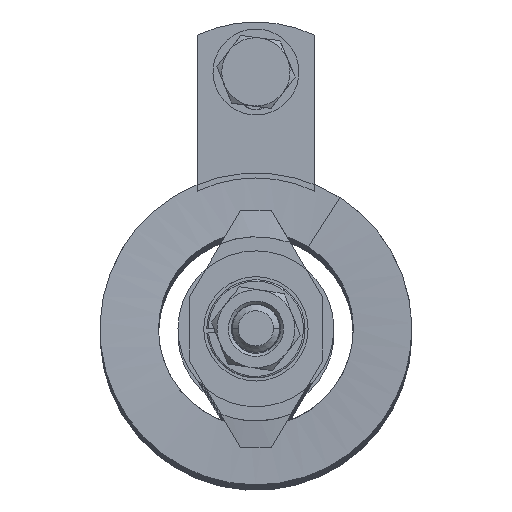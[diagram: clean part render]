
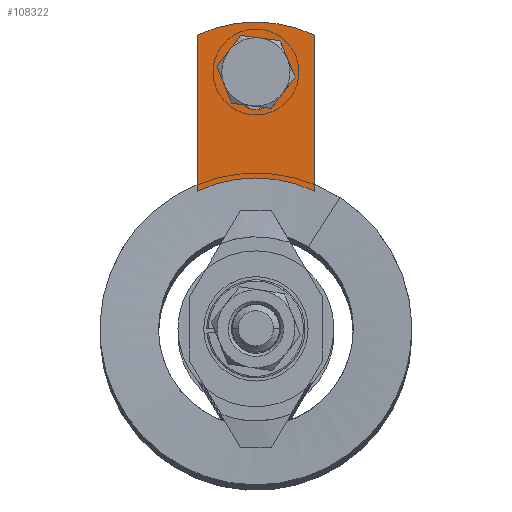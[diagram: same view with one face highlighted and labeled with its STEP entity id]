
A CAD part, top view. The second image highlights one B-rep face of the part: STEP entity #108322.
In plain terms, the highlighted planar face has unit normal (0, 0, 1).
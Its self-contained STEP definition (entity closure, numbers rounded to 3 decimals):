
#5591 = ORIENTED_EDGE ( 'NONE', *, *, #123793, .T. ) ;
#5594 = ORIENTED_EDGE ( 'NONE', *, *, #123825, .T. ) ;
#5602 = ORIENTED_EDGE ( 'NONE', *, *, #123821, .T. ) ;
#5604 = ORIENTED_EDGE ( 'NONE', *, *, #123819, .T. ) ;
#5606 = ORIENTED_EDGE ( 'NONE', *, *, #123817, .T. ) ;
#5608 = ORIENTED_EDGE ( 'NONE', *, *, #123815, .T. ) ;
#5614 = ORIENTED_EDGE ( 'NONE', *, *, #123813, .T. ) ;
#5616 = ORIENTED_EDGE ( 'NONE', *, *, #123785, .T. ) ;
#5624 = ORIENTED_EDGE ( 'NONE', *, *, #123777, .T. ) ;
#5626 = ORIENTED_EDGE ( 'NONE', *, *, #123823, .T. ) ;
#5670 = ORIENTED_EDGE ( 'NONE', *, *, #123827, .T. ) ;
#8631 = AXIS2_PLACEMENT_3D ( 'NONE', #79348, #79346, #79352 ) ;
#42783 = CARTESIAN_POINT ( 'NONE',  ( -28.575, 0., 0. ) ) ;
#42784 = DIRECTION ( 'NONE',  ( 0., 0., -1. ) ) ;
#42785 = DIRECTION ( 'NONE',  ( 1., 0., 0. ) ) ;
#42809 = CARTESIAN_POINT ( 'NONE',  ( 10.914, 0., 0. ) ) ;
#42810 = DIRECTION ( 'NONE',  ( 0., 0., -1. ) ) ;
#42811 = DIRECTION ( 'NONE',  ( 1., 0., 0. ) ) ;
#42839 = CARTESIAN_POINT ( 'NONE',  ( -3.175, 0., 0. ) ) ;
#42840 = DIRECTION ( 'NONE',  ( 0., 0., 1. ) ) ;
#42841 = DIRECTION ( 'NONE',  ( 1., 0., 0. ) ) ;
#42920 = CARTESIAN_POINT ( 'NONE',  ( 0., 3.373, 0. ) ) ;
#42921 = DIRECTION ( 'NONE',  ( 1., 0., 0. ) ) ;
#42926 = CARTESIAN_POINT ( 'NONE',  ( 10.914, 0., 0. ) ) ;
#42927 = DIRECTION ( 'NONE',  ( 0., 0., -1. ) ) ;
#42928 = DIRECTION ( 'NONE',  ( 1., 0., 0. ) ) ;
#42929 = CARTESIAN_POINT ( 'NONE',  ( 0., -3.373, 0. ) ) ;
#42930 = DIRECTION ( 'NONE',  ( -1., 0., 0. ) ) ;
#42935 = CARTESIAN_POINT ( 'NONE',  ( 8.136, 0., 0. ) ) ;
#42936 = DIRECTION ( 'NONE',  ( 0., 0., -1. ) ) ;
#42937 = DIRECTION ( 'NONE',  ( 1., 0., 0. ) ) ;
#42938 = CARTESIAN_POINT ( 'NONE',  ( 19.05, 9.525, 0. ) ) ;
#42939 = DIRECTION ( 'NONE',  ( -1., 0., 0. ) ) ;
#42955 = CARTESIAN_POINT ( 'NONE',  ( -28.575, 0., 0. ) ) ;
#42956 = DIRECTION ( 'NONE',  ( 0., 0., -1. ) ) ;
#42957 = DIRECTION ( 'NONE',  ( 1., 0., 0. ) ) ;
#42961 = CARTESIAN_POINT ( 'NONE',  ( 19.05, -9.525, 0. ) ) ;
#42962 = DIRECTION ( 'NONE',  ( 1., 0., 0. ) ) ;
#42967 = CARTESIAN_POINT ( 'NONE',  ( -3.175, 0., 0. ) ) ;
#42968 = DIRECTION ( 'NONE',  ( 0., 0., 1. ) ) ;
#42969 = DIRECTION ( 'NONE',  ( 1., 0., 0. ) ) ;
#55323 = CARTESIAN_POINT ( 'NONE',  ( -8.495, 9.525, 0. ) ) ;
#55326 = CARTESIAN_POINT ( 'NONE',  ( 8.136, 3.373, 0. ) ) ;
#55395 = CARTESIAN_POINT ( 'NONE',  ( -6.35, 0., 0. ) ) ;
#58133 = FACE_BOUND ( 'NONE', #68462, .T. ) ;
#58172 = FACE_OUTER_BOUND ( 'NONE', #68454, .T. ) ;
#58512 = CIRCLE ( 'NONE', #81388, 22.225 ) ;
#58520 = CIRCLE ( 'NONE', #81400, 3.373 ) ;
#58525 = CIRCLE ( 'NONE', #81408, 22.225 ) ;
#58571 = CIRCLE ( 'NONE', #81443, 22.225 ) ;
#58573 = LINE ( 'NONE', #42920, #58580 ) ;
#58580 = VECTOR ( 'NONE', #42921, 1000. ) ;
#58582 = CIRCLE ( 'NONE', #81438, 3.373 ) ;
#58588 = LINE ( 'NONE', #42929, #58595 ) ;
#58595 = VECTOR ( 'NONE', #42930, 1000. ) ;
#58597 = CIRCLE ( 'NONE', #81440, 3.373 ) ;
#58603 = LINE ( 'NONE', #42938, #58610 ) ;
#58610 = VECTOR ( 'NONE', #42939, 1000. ) ;
#58614 = LINE ( 'NONE', #42961, #58616 ) ;
#58616 = VECTOR ( 'NONE', #42962, 1000. ) ;
#58619 = CIRCLE ( 'NONE', #81445, 22.225 ) ;
#68454 = EDGE_LOOP ( 'NONE', ( #5602, #5624, #5626, #5594, #5591, #5670 ) ) ;
#68462 = EDGE_LOOP ( 'NONE', ( #5614, #5616, #5608, #5606, #5604 ) ) ;
#68998 = VERTEX_POINT ( 'NONE', #73691 ) ;
#68999 = VERTEX_POINT ( 'NONE', #73686 ) ;
#69002 = VERTEX_POINT ( 'NONE', #73693 ) ;
#69003 = VERTEX_POINT ( 'NONE', #73688 ) ;
#69004 = VERTEX_POINT ( 'NONE', #73694 ) ;
#69010 = VERTEX_POINT ( 'NONE', #73700 ) ;
#69011 = VERTEX_POINT ( 'NONE', #73701 ) ;
#69012 = VERTEX_POINT ( 'NONE', #73702 ) ;
#73686 = CARTESIAN_POINT ( 'NONE',  ( 14.287, 0., 0. ) ) ;
#73688 = CARTESIAN_POINT ( 'NONE',  ( 19.05, 0., 0. ) ) ;
#73691 = CARTESIAN_POINT ( 'NONE',  ( 10.914, 3.373, 0. ) ) ;
#73693 = CARTESIAN_POINT ( 'NONE',  ( 16.905, -9.525, 0. ) ) ;
#73694 = CARTESIAN_POINT ( 'NONE',  ( 16.905, 9.525, 0. ) ) ;
#73700 = CARTESIAN_POINT ( 'NONE',  ( 10.914, -3.373, 0. ) ) ;
#73701 = CARTESIAN_POINT ( 'NONE',  ( -8.495, -9.525, 0. ) ) ;
#73702 = CARTESIAN_POINT ( 'NONE',  ( 8.136, -3.373, 0. ) ) ;
#79346 = DIRECTION ( 'NONE',  ( 0., 0., 1. ) ) ;
#79348 = CARTESIAN_POINT ( 'NONE',  ( 0., 0., 0. ) ) ;
#79350 = PLANE ( 'NONE',  #8631 ) ;
#79352 = DIRECTION ( 'NONE',  ( 1., 0., 0. ) ) ;
#81388 = AXIS2_PLACEMENT_3D ( 'NONE', #42783, #42784, #42785 ) ;
#81400 = AXIS2_PLACEMENT_3D ( 'NONE', #42809, #42810, #42811 ) ;
#81408 = AXIS2_PLACEMENT_3D ( 'NONE', #42839, #42840, #42841 ) ;
#81438 = AXIS2_PLACEMENT_3D ( 'NONE', #42926, #42927, #42928 ) ;
#81440 = AXIS2_PLACEMENT_3D ( 'NONE', #42935, #42936, #42937 ) ;
#81443 = AXIS2_PLACEMENT_3D ( 'NONE', #42955, #42956, #42957 ) ;
#81445 = AXIS2_PLACEMENT_3D ( 'NONE', #42967, #42968, #42969 ) ;
#108322 = ADVANCED_FACE ( 'NONE', ( #58133, #58172 ), #79350, .T. ) ;
#123777 = EDGE_CURVE ( 'NONE', #137488, #138534, #58512, .T. ) ;
#123785 = EDGE_CURVE ( 'NONE', #68998, #68999, #58520, .T. ) ;
#123793 = EDGE_CURVE ( 'NONE', #69002, #69003, #58525, .T. ) ;
#123813 = EDGE_CURVE ( 'NONE', #138206, #68998, #58573, .T. ) ;
#123815 = EDGE_CURVE ( 'NONE', #68999, #69010, #58582, .T. ) ;
#123817 = EDGE_CURVE ( 'NONE', #69010, #69012, #58588, .T. ) ;
#123819 = EDGE_CURVE ( 'NONE', #69012, #138206, #58597, .T. ) ;
#123821 = EDGE_CURVE ( 'NONE', #69004, #137488, #58603, .T. ) ;
#123823 = EDGE_CURVE ( 'NONE', #138534, #69011, #58571, .T. ) ;
#123825 = EDGE_CURVE ( 'NONE', #69011, #69002, #58614, .T. ) ;
#123827 = EDGE_CURVE ( 'NONE', #69003, #69004, #58619, .T. ) ;
#137488 = VERTEX_POINT ( 'NONE', #55323 ) ;
#138206 = VERTEX_POINT ( 'NONE', #55326 ) ;
#138534 = VERTEX_POINT ( 'NONE', #55395 ) ;
